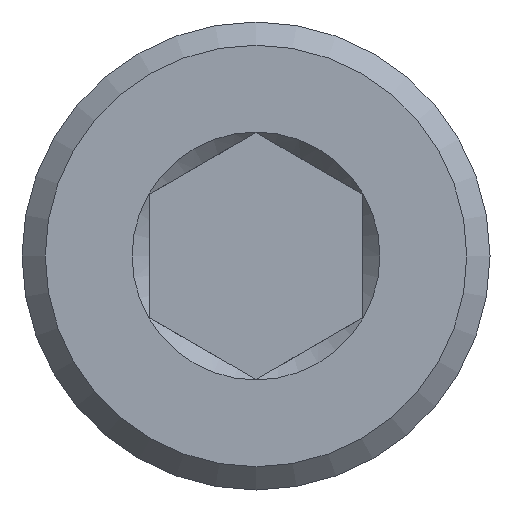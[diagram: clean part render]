
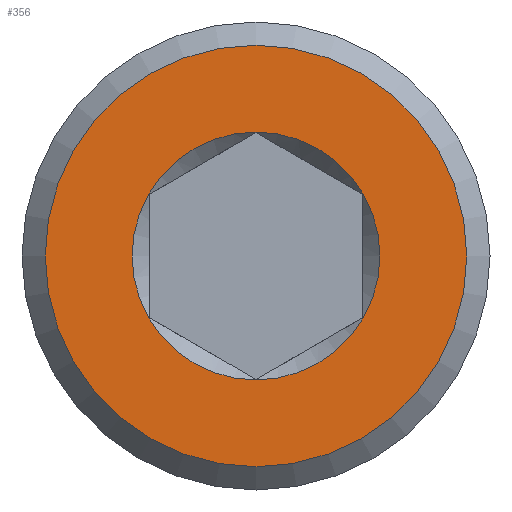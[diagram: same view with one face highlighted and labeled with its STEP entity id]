
A CAD part, front view. The second image highlights one B-rep face of the part: STEP entity #356.
In plain terms, the highlighted planar face has unit normal (0, -1, 0).
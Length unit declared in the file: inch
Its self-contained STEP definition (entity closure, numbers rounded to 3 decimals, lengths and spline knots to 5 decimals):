
#29=FACE_BOUND('',#113,.T.);
#91=FACE_OUTER_BOUND('',#112,.T.);
#112=EDGE_LOOP('',(#310));
#113=EDGE_LOOP('',(#311));
#132=CIRCLE('',#406,0.435);
#133=CIRCLE('',#408,0.74);
#169=VERTEX_POINT('',#631);
#170=VERTEX_POINT('',#635);
#217=EDGE_CURVE('',#169,#169,#132,.T.);
#218=EDGE_CURVE('',#170,#170,#133,.T.);
#310=ORIENTED_EDGE('',*,*,#218,.F.);
#311=ORIENTED_EDGE('',*,*,#217,.F.);
#339=PLANE('',#407);
#356=ADVANCED_FACE('',(#91,#29),#339,.T.);
#406=AXIS2_PLACEMENT_3D('',#633,#495,#496);
#407=AXIS2_PLACEMENT_3D('',#634,#497,#498);
#408=AXIS2_PLACEMENT_3D('',#636,#499,#500);
#495=DIRECTION('center_axis',(0.,-1.,0.));
#496=DIRECTION('ref_axis',(0.,0.,1.));
#497=DIRECTION('center_axis',(0.,-1.,0.));
#498=DIRECTION('ref_axis',(0.,0.,-1.));
#499=DIRECTION('center_axis',(0.,1.,0.));
#500=DIRECTION('ref_axis',(0.,0.,1.));
#631=CARTESIAN_POINT('',(0.,0.,-0.435));
#633=CARTESIAN_POINT('Origin',(0.,0.,0.));
#634=CARTESIAN_POINT('Origin',(0.,0.,-0.375));
#635=CARTESIAN_POINT('',(0.,0.,-0.74));
#636=CARTESIAN_POINT('Origin',(0.,0.,0.));
